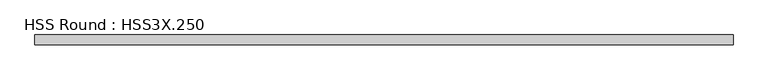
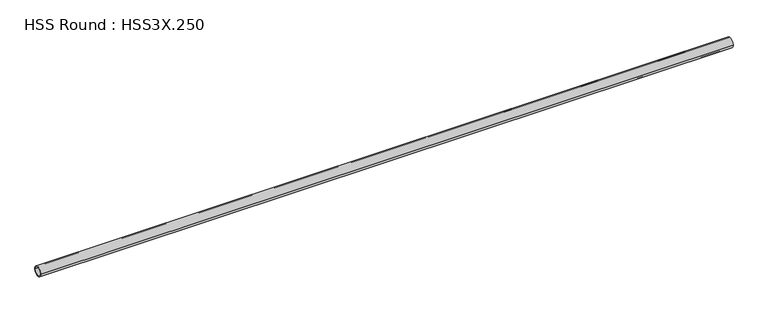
"""IFC4 building model written with IfcOpenShell, lengths in millimetres: member geometry, HSS Round : HSS3X.250."""

from ifc_helpers import new_model, si_unit, point, frame, origin, origin_2d, place, context, project, spatial, circle_curve, trimmed, segment, composite_curve, outline, extrude, source, transform, mapped, element, save


def hss_round_hss3x_250_981c8c7b(model_context):
    return source(origin(), model_context, "Body", "SweptSolid", [
        extrude(outline(composite_curve([segment(trimmed(circle_curve(origin_2d(), 38.1), [point((-38.1, 0.0))], [point((38.1, 0.0))], False, "CARTESIAN"), True, "CONTINUOUS"), segment(trimmed(circle_curve(origin_2d(), 38.1), [point((38.1, 0.0))], [point((-38.1, 0.0))], False, "CARTESIAN"), True, "CONTINUOUS")], self_intersect=False), holes=[composite_curve([segment(trimmed(circle_curve(origin_2d(), 31.75), [point((31.75, 0.0))], [point((-31.75, 0.0))], True, "CARTESIAN"), True, "CONTINUOUS"), segment(trimmed(circle_curve(origin_2d(), 31.75), [point((-31.75, 0.0))], [point((31.75, 0.0))], True, "CARTESIAN"), True, "CONTINUOUS")], self_intersect=False)]), frame((-2573.0164982, 0.0, 0.0), z_axis=(1.0, 0.0, 0.0), x_axis=(0.0, 1.0, 0.0)), (0.0, 0.0, 1.0), 5321.8295426),
    ])


if __name__ == "__main__":
    model = new_model("IFC4")
    model_context = context("Model", 3, world=origin())
    ifc_project = project(units=[si_unit("LENGTHUNIT", "METRE", prefix="MILLI")], contexts=[model_context])
    site = spatial("IfcSite", under=ifc_project)
    building = spatial("IfcBuilding", under=site)
    placement = place(None, origin())
    hss_round_hss3x_250_shape = hss_round_hss3x_250_981c8c7b(model_context)
    element("IfcMember", 1, ObjectType="HSS Round : HSS3X.250", at=placement, inside=building, context=model_context, shape_type="MappedRepresentation", body=[
        mapped(hss_round_hss3x_250_shape, transform((0.0, 0.0, 0.0), x_axis=(1.0, 0.0, 0.0), y_axis=(0.0, 1.0, 0.0), z_axis=(0.0, 0.0, 1.0))),
    ])
    save(model, "model.ifc")
